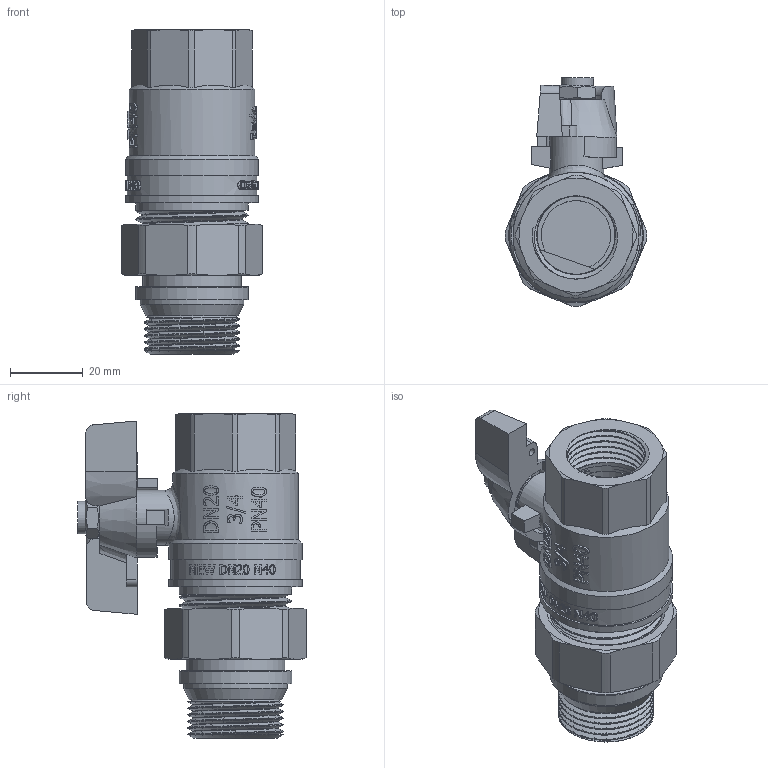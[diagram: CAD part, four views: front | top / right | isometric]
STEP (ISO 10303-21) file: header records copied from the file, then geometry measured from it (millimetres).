
FILE_DESCRIPTION(/* description */ (''),/* implementation_level */ '2;1');
FILE_NAME(/* name */ 'C:\Users\Doom\Desktop\Фадотех\KA2 08.11.2021\KA2 08.11.2021.stp',/* time_stamp */ '2021-11-30T01:14:45+02:00',/* author */ (''),/* organization */ (''),/* preprocessor_version */ 'ST-DEVELOPER v18',/* originating_system */ 'Autodesk Inventor 2020',/* authorisation */ '');
FILE_SCHEMA (('AUTOMOTIVE_DESIGN { 1 0 10303 214 3 1 1 }'));
Length unit declared in the file: millimetre
Products named in the file (12): KA2 08.11.2021; KA2 08.11.2021_1; KA2 08.11.2021_2; 22208286; KA1 08.11.2021; 20642011; KA2 08.11.2021_3; KA2 08.11.2021_4; KA2 08.11.2021_5; 27032112; KA2 08.11.2021_6; DIN 985 - M6
Assembly tree (11 placements, depth 2):
  KA2 08.11.2021
    KA2 08.11.2021_1
    KA2 08.11.2021_2
    22208286
    KA1 08.11.2021
    20642011
    KA2 08.11.2021_3
    KA2 08.11.2021_4
    KA2 08.11.2021_5
    27032112
    KA2 08.11.2021_6
    DIN 985 - M6
Bounding box: 38.79 x 62.63 x 89 mm (x, y, z)
Volume: 49966.6 mm3; surface area: 48855.9 mm2
Topology: 16 solids, 16 shells, 1974 faces, 5640 edges, 3775 vertices
Faces by surface type: plane 1045, bspline 526, cylinder 331, cone 62, torus 9, sphere 1
Full cylindrical faces by diameter (mm): 2 x2, 4.917 x1, 8 x1, 8.1 x1, 8.2 x1, 8.793 x3, 8.9 x1, 10 x1, 10.3 x1, 10.647 x1, 11 x1, 12.5 x1, 15 x1, 16 x1, 17 x1, 19 x3, 19.5 x2, 21.427 x7, 23 x1, 23.41 x2, 23.5 x1, 24 x1, 24.117 x1, 25 x1, 26 x2, 26.1 x1, 26.2 x1, 26.5 x1, 27 x1, 27.326 x6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
Entity records: 110191 total; most frequent: CARTESIAN_POINT 65027, ORIENTED_EDGE 11248, DIRECTION 6406, EDGE_CURVE 5624, VERTEX_POINT 3768, B_SPLINE_CURVE_WITH_KNOTS 2737, AXIS2_PLACEMENT_3D 2272, EDGE_LOOP 2096
